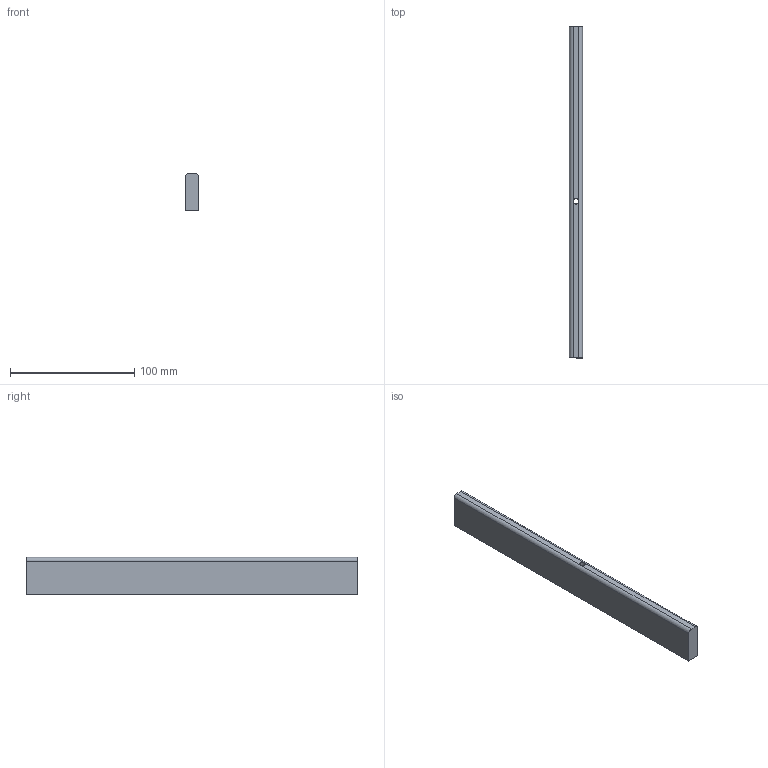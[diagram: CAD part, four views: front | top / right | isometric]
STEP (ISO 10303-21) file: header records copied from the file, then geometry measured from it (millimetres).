
FILE_DESCRIPTION (( 'STEP AP214' ), '1' );
FILE_NAME ('_Seitenreling_SP60702400_RL267,1.step', '2010-09-06T14:52:01', ( 'grass' ), ( '' ), 'SwSTEP 2.0', 'SolidWorks 2010', '' );
FILE_SCHEMA (( 'AUTOMOTIVE_DESIGN' ));
Length unit declared in the file: millimetre
Products named in the file (1): _Seitenreling_SP60702400_RL267,1
Bounding box: 10.5 x 267.1 x 30 mm (x, y, z)
Volume: 82185.7 mm3; surface area: 22107.9 mm2
Topology: 1 solids, 1 shells, 14 faces, 34 edges, 22 vertices
Faces by surface type: plane 8, cylinder 6
Entity records: 454 total; most frequent: DIRECTION 78, CARTESIAN_POINT 71, ORIENTED_EDGE 68, EDGE_CURVE 34, AXIS2_PLACEMENT_3D 29, VERTEX_POINT 22, VECTOR 20, LINE 20
